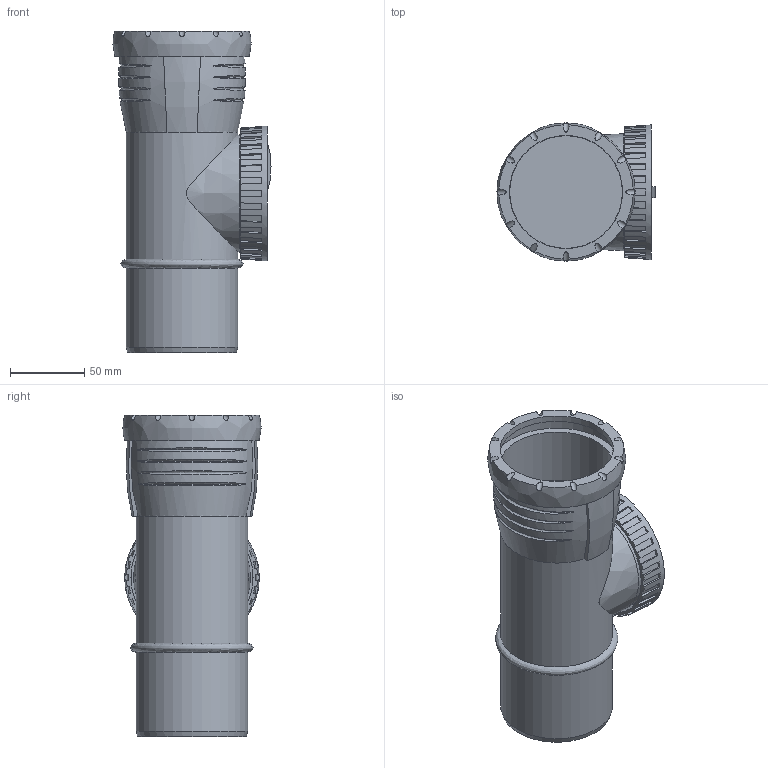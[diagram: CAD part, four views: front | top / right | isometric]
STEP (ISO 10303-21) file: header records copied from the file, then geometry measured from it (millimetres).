
FILE_DESCRIPTION(/* description */ (''),/* implementation_level */ '2;1');
FILE_NAME(/* name */ 'H:\Geberit-Teile\Export\Rein Stück PP\stp\393327.stp',/* time_stamp */ '2017-02-13T15:11:35+01:00',/* author */ ('seihe2'),/* organization */ (''),/* preprocessor_version */ 'ST-DEVELOPER v15.2',/* originating_system */ 'Autodesk Inventor 2014',/* authorisation */ '');
FILE_SCHEMA (('AUTOMOTIVE_DESIGN { 1 0 10303 214 3 1 1 }'));
Length unit declared in the file: millimetre
Products named in the file (1): 393327
Bounding box: 106.4 x 92.99 x 216 mm (x, y, z)
Volume: 808942.5 mm3; surface area: 146006.1 mm2
Topology: 5 solids, 5 shells, 205 faces, 555 edges, 374 vertices
Faces by surface type: plane 148, bspline 24, cylinder 23, cone 10
Full cylindrical faces by diameter (mm): 58.903 x1, 67.6 x1, 75.2 x3, 75.9 x1, 76.2 x1, 78.76 x1, 85 x1
Entity records: 8921 total; most frequent: CARTESIAN_POINT 3893, ORIENTED_EDGE 1070, DIRECTION 896, EDGE_CURVE 534, VERTEX_POINT 369, AXIS2_PLACEMENT_3D 317, LINE 262, VECTOR 262
